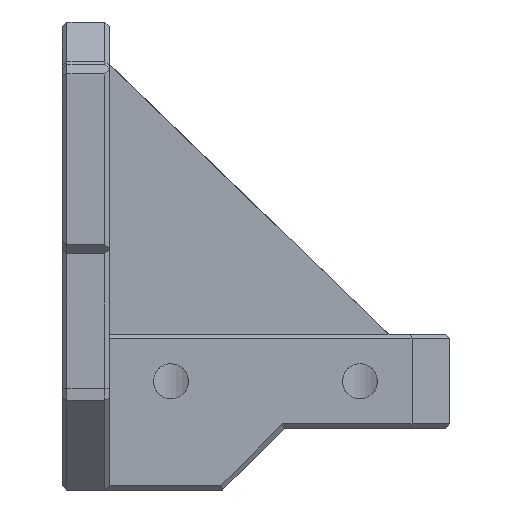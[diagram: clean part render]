
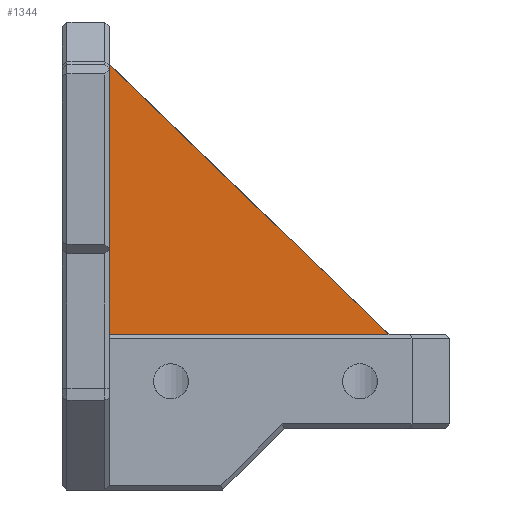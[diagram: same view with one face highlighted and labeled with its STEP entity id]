
A CAD part, front view. The second image highlights one B-rep face of the part: STEP entity #1344.
In plain terms, the highlighted planar face has unit normal (0, -1, 0).
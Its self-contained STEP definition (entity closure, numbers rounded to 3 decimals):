
#865=CARTESIAN_POINT('Vertex',(-16.5,6.,10.)) ;
#870=CARTESIAN_POINT('Line Origine',(-16.5,6.,24.25)) ;
#874=CARTESIAN_POINT('Vertex',(-16.5,6.,38.5)) ;
#1078=CARTESIAN_POINT('Vertex',(13.,6.,10.)) ;
#1081=CARTESIAN_POINT('Line Origine',(-1.75,6.,10.)) ;
#1329=CARTESIAN_POINT('Axis2P3D Location',(0.,6.,0.)) ;
#1334=CARTESIAN_POINT('Line Origine',(-1.75,6.,24.25)) ;
#871=DIRECTION('Vector Direction',(0.,0.,-1.)) ;
#1082=DIRECTION('Vector Direction',(1.,0.,0.)) ;
#1330=DIRECTION('Axis2P3D Direction',(0.,1.,-0.)) ;
#1331=DIRECTION('Axis2P3D XDirection',(-1.,0.,0.)) ;
#1335=DIRECTION('Vector Direction',(0.719,0.,-0.695)) ;
#1332=AXIS2_PLACEMENT_3D('Plane Axis2P3D',#1329,#1330,#1331) ;
#1340=ORIENTED_EDGE('',*,*,#876,.F.) ;
#1341=ORIENTED_EDGE('',*,*,#1085,.F.) ;
#1342=ORIENTED_EDGE('',*,*,#1338,.F.) ;
#872=VECTOR('Line Direction',#871,1.) ;
#1083=VECTOR('Line Direction',#1082,1.) ;
#1336=VECTOR('Line Direction',#1335,1.) ;
#1344=ADVANCED_FACE('PartBody',(#1343),#1333,.F.) ;
#876=EDGE_CURVE('',#866,#875,#873,.F.) ;
#1085=EDGE_CURVE('',#1079,#866,#1084,.F.) ;
#1338=EDGE_CURVE('',#875,#1079,#1337,.T.) ;
#1339=EDGE_LOOP('',(#1340,#1341,#1342)) ;
#1343=FACE_OUTER_BOUND('',#1339,.T.) ;
#873=LINE('Line',#870,#872) ;
#1084=LINE('Line',#1081,#1083) ;
#1337=LINE('Line',#1334,#1336) ;
#1333=PLANE('Plane',#1332) ;
#866=VERTEX_POINT('',#865) ;
#875=VERTEX_POINT('',#874) ;
#1079=VERTEX_POINT('',#1078) ;
